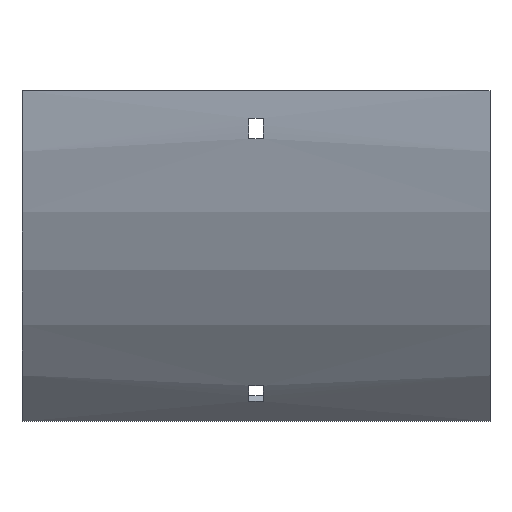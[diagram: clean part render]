
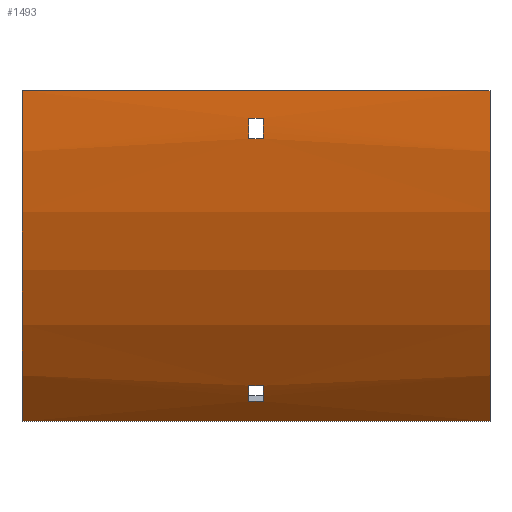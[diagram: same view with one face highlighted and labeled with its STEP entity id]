
A CAD part, front view. The second image highlights one B-rep face of the part: STEP entity #1493.
In plain terms, the highlighted cylindrical face has radius 204 mm (diameter 408 mm), a partial arc.
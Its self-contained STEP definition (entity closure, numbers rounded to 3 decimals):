
#21 = CARTESIAN_POINT ( 'NONE',  ( 3.25, 100., 0. ) ) ;
#30 = LINE ( 'NONE', #1085, #1034 ) ;
#80 = CARTESIAN_POINT ( 'NONE',  ( 3.25, 100., 0. ) ) ;
#84 = AXIS2_PLACEMENT_3D ( 'NONE', #179, #1482, #301 ) ;
#104 = VERTEX_POINT ( 'NONE', #819 ) ;
#110 = CARTESIAN_POINT ( 'NONE',  ( -3.25, -103.647, -12. ) ) ;
#122 = VERTEX_POINT ( 'NONE', #426 ) ;
#130 = CARTESIAN_POINT ( 'NONE',  ( -102., -44.25, -144.25 ) ) ;
#135 = AXIS2_PLACEMENT_3D ( 'NONE', #1323, #934, #915 ) ;
#179 = CARTESIAN_POINT ( 'NONE',  ( 102., 100., 0. ) ) ;
#194 = ORIENTED_EDGE ( 'NONE', *, *, #1202, .F. ) ;
#199 = LINE ( 'NONE', #212, #1511 ) ;
#211 = FACE_BOUND ( 'NONE', #609, .T. ) ;
#212 = CARTESIAN_POINT ( 'NONE',  ( 102., -102.916, -21. ) ) ;
#219 = DIRECTION ( 'NONE',  ( 0., 0., 1. ) ) ;
#221 = EDGE_CURVE ( 'NONE', #689, #122, #648, .T. ) ;
#233 = DIRECTION ( 'NONE',  ( 1., 0., 0. ) ) ;
#242 = DIRECTION ( 'NONE',  ( 0., 0., -1. ) ) ;
#246 = AXIS2_PLACEMENT_3D ( 'NONE', #890, #365, #242 ) ;
#256 = DIRECTION ( 'NONE',  ( 0., 0., -1. ) ) ;
#276 = EDGE_CURVE ( 'NONE', #347, #689, #681, .T. ) ;
#286 = ORIENTED_EDGE ( 'NONE', *, *, #1353, .T. ) ;
#301 = DIRECTION ( 'NONE',  ( 0., 0., 1. ) ) ;
#303 = DIRECTION ( 'NONE',  ( 1., 0., 0. ) ) ;
#345 = VERTEX_POINT ( 'NONE', #130 ) ;
#346 = CIRCLE ( 'NONE', #1306, 204. ) ;
#347 = VERTEX_POINT ( 'NONE', #917 ) ;
#365 = DIRECTION ( 'NONE',  ( 1., 0., 0. ) ) ;
#393 = DIRECTION ( 'NONE',  ( 1., 0., 0. ) ) ;
#426 = CARTESIAN_POINT ( 'NONE',  ( 3.25, -52.485, -135.515 ) ) ;
#432 = DIRECTION ( 'NONE',  ( 1., 0., 0. ) ) ;
#471 = DIRECTION ( 'NONE',  ( -1., 0., 0. ) ) ;
#483 = VECTOR ( 'NONE', #1375, 1000. ) ;
#494 = LINE ( 'NONE', #1406, #1687 ) ;
#496 = VERTEX_POINT ( 'NONE', #1063 ) ;
#522 = VERTEX_POINT ( 'NONE', #1600 ) ;
#536 = CARTESIAN_POINT ( 'NONE',  ( -102., -104., 0. ) ) ;
#562 = CYLINDRICAL_SURFACE ( 'NONE', #84, 204. ) ;
#578 = LINE ( 'NONE', #1507, #1653 ) ;
#609 = EDGE_LOOP ( 'NONE', ( #1450, #1430, #828, #1439 ) ) ;
#618 = AXIS2_PLACEMENT_3D ( 'NONE', #1043, #1017, #1428 ) ;
#639 = CARTESIAN_POINT ( 'NONE',  ( 102., -52.485, -135.515 ) ) ;
#648 = LINE ( 'NONE', #639, #853 ) ;
#654 = ORIENTED_EDGE ( 'NONE', *, *, #685, .T. ) ;
#672 = CIRCLE ( 'NONE', #1230, 204. ) ;
#681 = CIRCLE ( 'NONE', #246, 204. ) ;
#685 = EDGE_CURVE ( 'NONE', #1194, #918, #578, .T. ) ;
#689 = VERTEX_POINT ( 'NONE', #1105 ) ;
#714 = LINE ( 'NONE', #848, #483 ) ;
#727 = FACE_BOUND ( 'NONE', #1196, .T. ) ;
#810 = VERTEX_POINT ( 'NONE', #110 ) ;
#819 = CARTESIAN_POINT ( 'NONE',  ( 3.25, -103.647, -12. ) ) ;
#828 = ORIENTED_EDGE ( 'NONE', *, *, #938, .T. ) ;
#848 = CARTESIAN_POINT ( 'NONE',  ( 102., -44.25, -144.25 ) ) ;
#853 = VECTOR ( 'NONE', #233, 1000. ) ;
#885 = EDGE_CURVE ( 'NONE', #104, #1148, #1248, .T. ) ;
#890 = CARTESIAN_POINT ( 'NONE',  ( -3.25, 100., 0. ) ) ;
#898 = DIRECTION ( 'NONE',  ( -1., 0., 0. ) ) ;
#915 = DIRECTION ( 'NONE',  ( 0., 0., -1. ) ) ;
#917 = CARTESIAN_POINT ( 'NONE',  ( -3.25, -58.333, -128.634 ) ) ;
#918 = VERTEX_POINT ( 'NONE', #536 ) ;
#934 = DIRECTION ( 'NONE',  ( 1., 0., 0. ) ) ;
#938 = EDGE_CURVE ( 'NONE', #810, #104, #30, .T. ) ;
#949 = ORIENTED_EDGE ( 'NONE', *, *, #276, .F. ) ;
#982 = EDGE_CURVE ( 'NONE', #1148, #1502, #199, .T. ) ;
#1006 = EDGE_CURVE ( 'NONE', #122, #496, #672, .T. ) ;
#1017 = DIRECTION ( 'NONE',  ( -1., 0., 0. ) ) ;
#1034 = VECTOR ( 'NONE', #432, 1000. ) ;
#1043 = CARTESIAN_POINT ( 'NONE',  ( -3.25, 100., 0. ) ) ;
#1063 = CARTESIAN_POINT ( 'NONE',  ( 3.25, -58.333, -128.634 ) ) ;
#1070 = DIRECTION ( 'NONE',  ( 0., 0., -1. ) ) ;
#1079 = EDGE_CURVE ( 'NONE', #522, #345, #714, .T. ) ;
#1085 = CARTESIAN_POINT ( 'NONE',  ( 102., -103.647, -12. ) ) ;
#1105 = CARTESIAN_POINT ( 'NONE',  ( -3.25, -52.485, -135.515 ) ) ;
#1135 = EDGE_CURVE ( 'NONE', #1502, #810, #1475, .T. ) ;
#1148 = VERTEX_POINT ( 'NONE', #1413 ) ;
#1194 = VERTEX_POINT ( 'NONE', #1437 ) ;
#1196 = EDGE_LOOP ( 'NONE', ( #949, #194, #1282, #1268 ) ) ;
#1202 = EDGE_CURVE ( 'NONE', #496, #347, #494, .T. ) ;
#1222 = CARTESIAN_POINT ( 'NONE',  ( -3.25, -102.916, -21. ) ) ;
#1230 = AXIS2_PLACEMENT_3D ( 'NONE', #80, #471, #219 ) ;
#1235 = DIRECTION ( 'NONE',  ( -1., 0., 0. ) ) ;
#1248 = CIRCLE ( 'NONE', #1464, 204. ) ;
#1249 = EDGE_LOOP ( 'NONE', ( #286, #1330, #1355, #654 ) ) ;
#1268 = ORIENTED_EDGE ( 'NONE', *, *, #221, .F. ) ;
#1282 = ORIENTED_EDGE ( 'NONE', *, *, #1006, .F. ) ;
#1306 = AXIS2_PLACEMENT_3D ( 'NONE', #1334, #393, #256 ) ;
#1323 = CARTESIAN_POINT ( 'NONE',  ( -102., 100., 0. ) ) ;
#1330 = ORIENTED_EDGE ( 'NONE', *, *, #1079, .F. ) ;
#1332 = EDGE_CURVE ( 'NONE', #1194, #522, #346, .T. ) ;
#1334 = CARTESIAN_POINT ( 'NONE',  ( 102., 100., 0. ) ) ;
#1353 = EDGE_CURVE ( 'NONE', #918, #345, #1540, .T. ) ;
#1355 = ORIENTED_EDGE ( 'NONE', *, *, #1332, .F. ) ;
#1375 = DIRECTION ( 'NONE',  ( -1., 0., 0. ) ) ;
#1377 = DIRECTION ( 'NONE',  ( -1., 0., 0. ) ) ;
#1406 = CARTESIAN_POINT ( 'NONE',  ( 102., -58.333, -128.634 ) ) ;
#1413 = CARTESIAN_POINT ( 'NONE',  ( 3.25, -102.916, -21. ) ) ;
#1428 = DIRECTION ( 'NONE',  ( 0., 0., 1. ) ) ;
#1430 = ORIENTED_EDGE ( 'NONE', *, *, #1135, .T. ) ;
#1437 = CARTESIAN_POINT ( 'NONE',  ( 102., -104., 0. ) ) ;
#1439 = ORIENTED_EDGE ( 'NONE', *, *, #885, .T. ) ;
#1450 = ORIENTED_EDGE ( 'NONE', *, *, #982, .T. ) ;
#1464 = AXIS2_PLACEMENT_3D ( 'NONE', #21, #303, #1070 ) ;
#1475 = CIRCLE ( 'NONE', #618, 204. ) ;
#1482 = DIRECTION ( 'NONE',  ( -1., 0., 0. ) ) ;
#1493 = ADVANCED_FACE ( 'NONE', ( #1522, #211, #727 ), #562, .T. ) ;
#1502 = VERTEX_POINT ( 'NONE', #1222 ) ;
#1507 = CARTESIAN_POINT ( 'NONE',  ( 102., -104., 0. ) ) ;
#1511 = VECTOR ( 'NONE', #1235, 1000. ) ;
#1522 = FACE_OUTER_BOUND ( 'NONE', #1249, .T. ) ;
#1540 = CIRCLE ( 'NONE', #135, 204. ) ;
#1600 = CARTESIAN_POINT ( 'NONE',  ( 102., -44.25, -144.25 ) ) ;
#1653 = VECTOR ( 'NONE', #1377, 1000. ) ;
#1687 = VECTOR ( 'NONE', #898, 1000. ) ;
